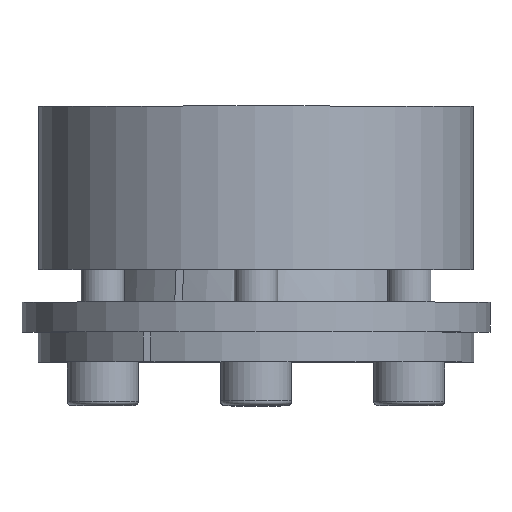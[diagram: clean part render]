
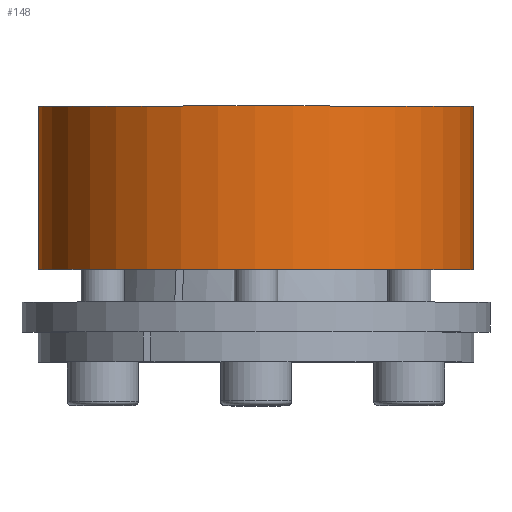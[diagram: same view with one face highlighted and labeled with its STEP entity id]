
A CAD part, top view. The second image highlights one B-rep face of the part: STEP entity #148.
In plain terms, the highlighted cylindrical face has radius 40 mm (diameter 80 mm), a partial arc.
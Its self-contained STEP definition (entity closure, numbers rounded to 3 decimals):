
#148 = ADVANCED_FACE( '', ( #320 ), #321, .T. );
#320 = FACE_OUTER_BOUND( '', #490, .T. );
#321 = CYLINDRICAL_SURFACE( '', #491, 40. );
#490 = EDGE_LOOP( '', ( #858, #859, #860, #861 ) );
#491 = AXIS2_PLACEMENT_3D( '', #862, #863, #864 );
#858 = ORIENTED_EDGE( '', *, *, #942, .F. );
#859 = ORIENTED_EDGE( '', *, *, #1049, .T. );
#860 = ORIENTED_EDGE( '', *, *, #1040, .T. );
#861 = ORIENTED_EDGE( '', *, *, #927, .F. );
#862 = CARTESIAN_POINT( '', ( 0., -60., 0. ) );
#863 = DIRECTION( '', ( 0., 1., 0. ) );
#864 = DIRECTION( '', ( 0., 0., -1. ) );
#927 = EDGE_CURVE( '', #1115, #1116, #1117, .F. );
#942 = EDGE_CURVE( '', #1143, #1115, #1145, .T. );
#1040 = EDGE_CURVE( '', #1292, #1116, #1293, .T. );
#1049 = EDGE_CURVE( '', #1143, #1292, #1302, .F. );
#1115 = VERTEX_POINT( '', #1452 );
#1116 = VERTEX_POINT( '', #1453 );
#1117 = LINE( '', #1454, #1455 );
#1143 = VERTEX_POINT( '', #1489 );
#1145 = CIRCLE( '', #1492, 40. );
#1292 = VERTEX_POINT( '', #1676 );
#1293 = CIRCLE( '', #1677, 40. );
#1302 = LINE( '', #1688, #1689 );
#1452 = CARTESIAN_POINT( '', ( 19.303, 17., -35.034 ) );
#1453 = CARTESIAN_POINT( '', ( 19.303, 47., -35.034 ) );
#1454 = CARTESIAN_POINT( '', ( 19.303, -60., -35.034 ) );
#1455 = VECTOR( '', #1728, 1000. );
#1489 = CARTESIAN_POINT( '', ( 20.689, 17., -34.234 ) );
#1492 = AXIS2_PLACEMENT_3D( '', #1753, #1754, #1755 );
#1676 = CARTESIAN_POINT( '', ( 20.689, 47., -34.234 ) );
#1677 = AXIS2_PLACEMENT_3D( '', #1907, #1908, #1909 );
#1688 = CARTESIAN_POINT( '', ( 20.689, -60., -34.234 ) );
#1689 = VECTOR( '', #1912, 1000. );
#1728 = DIRECTION( '', ( 0., -1., 0. ) );
#1753 = CARTESIAN_POINT( '', ( 0., 17., 0. ) );
#1754 = DIRECTION( '', ( 0., -1., 0. ) );
#1755 = DIRECTION( '', ( 0., 0., -1. ) );
#1907 = CARTESIAN_POINT( '', ( 0., 47., 0. ) );
#1908 = DIRECTION( '', ( 0., -1., 0. ) );
#1909 = DIRECTION( '', ( 0., 0., -1. ) );
#1912 = DIRECTION( '', ( 0., -1., 0. ) );
